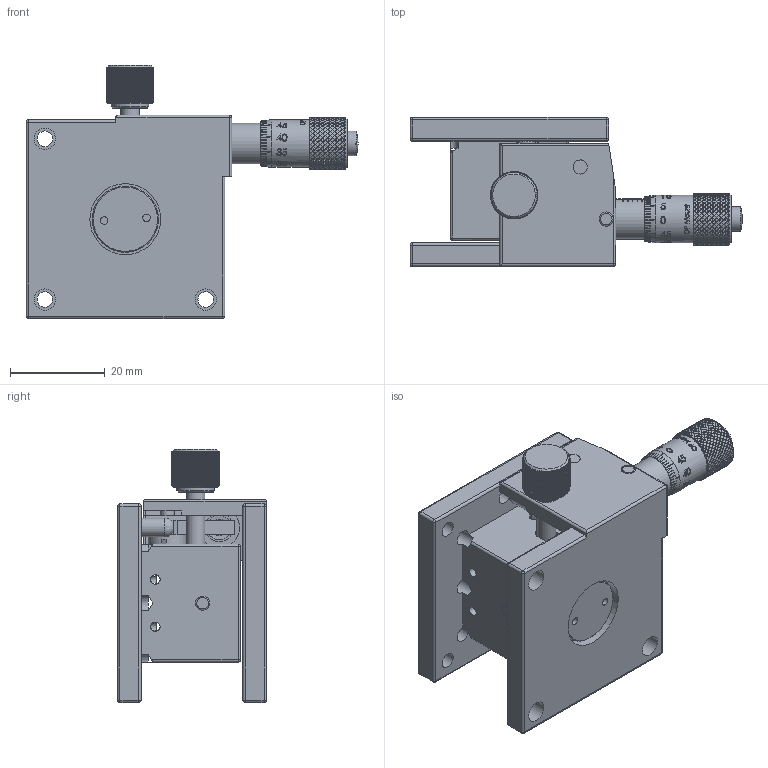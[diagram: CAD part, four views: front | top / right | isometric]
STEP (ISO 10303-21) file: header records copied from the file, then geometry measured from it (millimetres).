
FILE_DESCRIPTION (( 'STEP AP203' ), '1' );
FILE_NAME ('VTS-5.step', '2017-01-10T09:12:10', ( '¦K¬P' ), ( '' ), 'SwSTEP 2.0', 'SolidWorks 2012', '' );
FILE_SCHEMA (( 'CONFIG_CONTROL_DESIGN' ));
Products named in the file (1): VTS-5
Bounding box: 70.2 x 31.5 x 53.5 mm (x, y, z)
Surface area: 15473.6 mm2 (no closed solid volume)
Topology: 0 solids, 45 shells, 2214 faces, 8110 edges, 5649 vertices
Faces by surface type: bspline 1124, cylinder 832, plane 218, sphere 21, cone 18, torus 1
Full cylindrical faces by diameter (mm): 1.6 x6, 2 x5, 3 x5, 3.3 x12, 3.5 x1, 4 x2, 4.5 x3, 5.2 x1, 5.6 x1, 8 x2, 9.3 x1, 10.1 x1, 14 x1, 15 x1
Entity records: 200078 total; most frequent: CARTESIAN_POINT 151747, ORIENTED_EDGE 14058, EDGE_CURVE 8011, VERTEX_POINT 5620, DIRECTION 4585, B_SPLINE_CURVE_WITH_KNOTS 3409, EDGE_LOOP 2371, FACE_OUTER_BOUND 2256
